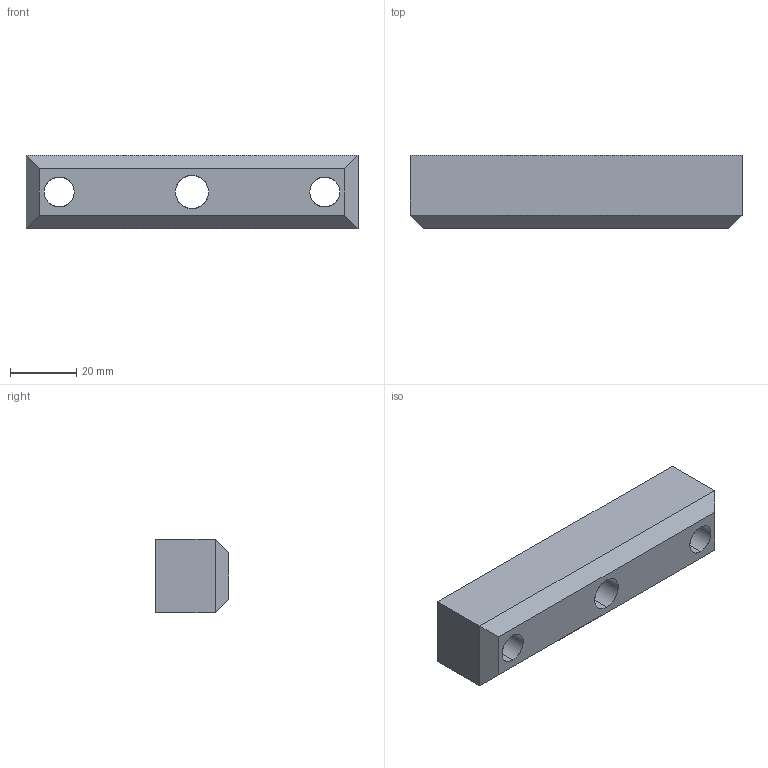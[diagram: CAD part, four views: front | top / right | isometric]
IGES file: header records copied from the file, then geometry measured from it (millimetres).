
Start section: START RECORD GO HERE.
Global section: file name: 761-022100.igs; native system: DASSAULT SYSTEMES CATIA V5 R20 - www.3ds.com; preprocessor: CATIA Version 5 Release 20 ; author: Utente; organization: NB04-ASUS; date: 20200411.200849; units: millimetre
Bounding box: 100 x 22 x 22 mm (x, y, z)
Surface area: 11290.4 mm2 (no closed solid volume)
Topology: 0 solids, 0 shells, 25 faces, 112 edges, 112 vertices
Faces by surface type: extrusion 13, revolution 12
